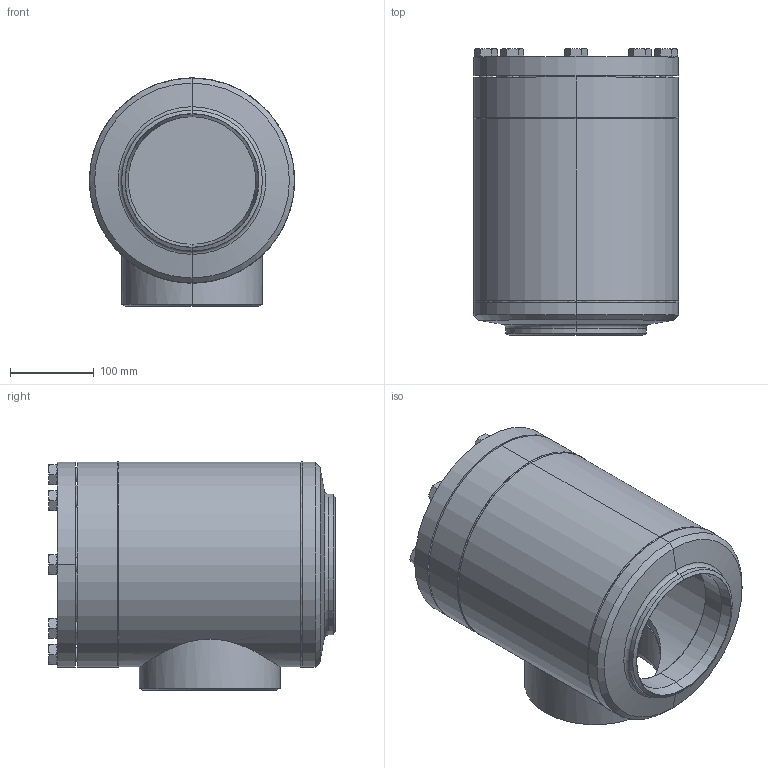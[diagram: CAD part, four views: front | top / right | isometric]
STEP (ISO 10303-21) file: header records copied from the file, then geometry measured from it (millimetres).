
FILE_DESCRIPTION (( 'STEP AP214' ), '1' );
FILE_NAME ('SS52400D21A5A0AA00_DN150_R1_PS40.STEP', '2010-06-16T12:47:29', ( 'Eckhard Grams' ), ( 'AWP Kälte Klima Armaturen GmbH' ), 'SwSTEP 2.0', 'SolidWorks 2002296', '' );
FILE_SCHEMA (( 'AUTOMOTIVE_DESIGN' ));
Length unit declared in the file: millimetre
Products named in the file (11): SS52400D21A5A0AA00_DN150_R1_PS40; Geh,kpl 16300E21-5030AA1_DN150_R1_Standard; Gehäuse16300-DN150_Standard; Kopfstück16300-DN150_Standard; bead Geh,kpl 16400-21-2_Standard; bead Geh,kpl 16400-21-1_Standard; Rohrstutzen-A16300a-21_R1_Standard; Boden16300-DN150_Standard; SS52300E21_Deck+Schr-DN150_Standard; Deckel52300E21-DN150_Standard; Sechskantschraube-DIN933_M16x 45
Assembly tree (17 placements, depth 3):
  SS52400D21A5A0AA00_DN150_R1_PS40
    SS52300E21_Deck+Schr-DN150_Standard
      Sechskantschraube-DIN933_M16x 45  x8
      Deckel52300E21-DN150_Standard
    Geh,kpl 16300E21-5030AA1_DN150_R1_Standard
      bead Geh,kpl 16400-21-2_Standard
      Boden16300-DN150_Standard
      Gehäuse16300-DN150_Standard
      bead Geh,kpl 16400-21-1_Standard
      Rohrstutzen-A16300a-21_R1_Standard
      Kopfstück16300-DN150_Standard
Bounding box: 245.28 x 342.5 x 272.63 mm (x, y, z)
Volume: 4907829.6 mm3; surface area: 825625.6 mm2
Topology: 15 solids, 15 shells, 283 faces, 604 edges, 360 vertices
Faces by surface type: cone 124, plane 88, cylinder 61, bspline 8, torus 2
Entity records: 5411 total; most frequent: CARTESIAN_POINT 2314, DIRECTION 536, ORIENTED_EDGE 480, EDGE_CURVE 240, AXIS2_PLACEMENT_3D 234, VERTEX_POINT 150, EDGE_LOOP 140, CIRCLE 112
